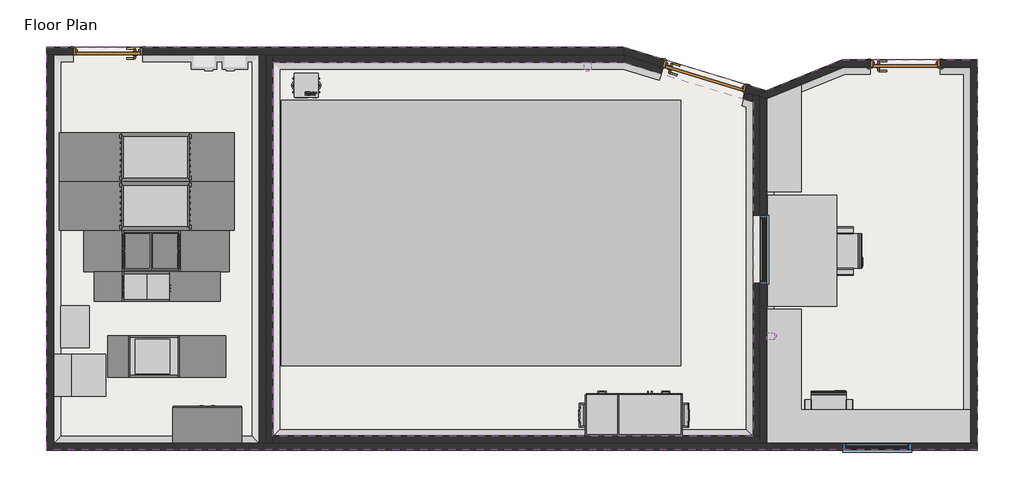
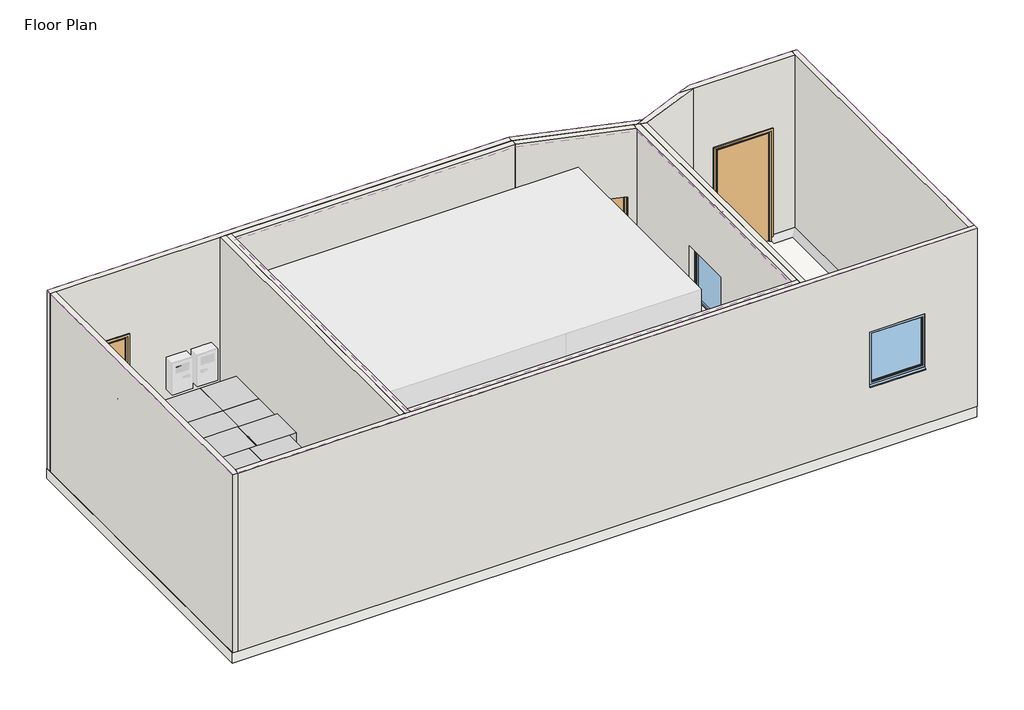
# One storey, part 1 of 2: 14 walls, 13 furniture elements, 7 proxies, 3 doors, 2 coverings, 2 windows, 1 slab.
"""IFC4 building model written with IfcOpenShell, lengths in millimetres."""

from ifc_helpers import new_model, si_unit, frame, origin, place, context, project, spatial, polyline, ellipse_curve, outline, extrude, faceted_brep, transform, mapped, element, save
from ifc_brep_helpers import plane_surface, cylinder_surface, revolved_surface, advanced_brep
from components import generic_models_a4c6fd55, generic_models_28b9f46c, generic_models_5fabc408, type_1_71104b44, door_f9eb5fde, door_1010x2110mm_ad0e13af, door_1010x2110mm_f2e4c21a, furniture_3b1ecb9b, furniture_bd22f9ff, furniture_fa404917, furniture_74cce83f, furniture_b9a21921, furniture_0908996f, furniture_ba49cc1c, furniture_6abc4a86, furniture_03daf546, furniture_d395b82f, furniture_5e5f2486, furniture_342fe79f, furniture_97fe266c, window_a183550a

model = new_model("IFC4")

# Units and contexts
model_context = context("Model", 3, world=origin())
ifc_project = project(units=[si_unit("LENGTHUNIT", "METRE", prefix="MILLI")], contexts=[model_context])

# Site, building, storey
site = spatial("IfcSite", under=ifc_project)
building = spatial("IfcBuilding", under=site)
storey = spatial("IfcBuildingStorey", under=building, Name="Floor Plan", Elevation=0.0)

# Proxies
placement = place(None, origin())
element("IfcBuildingElementProxy", 1, Name="Wall Sweeps", at=placement, inside=storey, context=model_context, shape_type="AdvancedBrep", body=[
    advanced_brep(
    [(-3162.5889003, -523.5240993, 0.0), (-3162.5889003, -523.5240993, 100.0), (-3152.5889003, -513.5240993, 100.0), (-3062.5889003, -423.5240993, 10.0), (-3062.5889003, -423.5240993, 0.0), (10093.9110997, -523.5240993, 0.0), (9993.9110997, -423.5240993, 0.0), (9993.9110997, -423.5240993, 10.0), (10083.9110997, -513.5240993, 100.0), (10093.9110997, -523.5240993, 100.0)],
    [
        (0, 1),
        (1, 2),
        (2, 3, ellipse_curve(frame((-3062.5889003, -423.5240993, 100.0), z_axis=(0.7071067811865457, -0.7071067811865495, 0.0), x_axis=(0.7071067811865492, 0.7071067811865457, 0.0)), 127.2792206, 90.0)),
        (3, 4),
        (4, 0),
        (5, 6),
        (6, 7),
        (7, 8, ellipse_curve(frame((9993.9110997, -423.5240993, 100.0), z_axis=(-0.7071067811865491, -0.707106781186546, 0.0), x_axis=(0.7071067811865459, -0.7071067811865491, 0.0)), 127.2792206, 90.0)),
        (8, 9),
        (9, 5),
        (0, 5),
        (9, 1),
        (8, 2),
        (7, 3),
        (6, 4),
    ],
    [
        plane_surface(frame((-3162.5889003, -523.5240993, -304.8), z_axis=(-0.7071067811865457, 0.7071067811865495, 0.0), x_axis=(0.7071067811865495, 0.7071067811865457, 0.0))),
        plane_surface(frame((10093.9110997, -523.5240993, -304.8), z_axis=(0.7071067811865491, 0.707106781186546, 0.0), x_axis=(-0.707106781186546, 0.7071067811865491, 0.0))),
        plane_surface(frame((-3162.5889003, -523.5240993, 0.0), z_axis=(0.0, -1.0, 0.0), x_axis=(1.0, 0.0, 0.0))),
        plane_surface(frame((-3162.5889003, -523.5240993, 100.0), z_axis=(0.0, 0.0, 1.0), x_axis=(1.0, 0.0, 0.0))),
        revolved_surface(polyline([(10083.911099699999, -333.5240993, 100.0), (-3152.5889003, -333.5240993, 100.0)]), (-3162.5889003, -423.5240993, 100.0), (1.0, 0.0, 0.0)),
        plane_surface(frame((-3062.5889003, -423.5240993, 10.0), z_axis=(0.0, 1.0, 0.0), x_axis=(1.0, 0.0, 0.0))),
        plane_surface(frame((-3062.5889003, -423.5240993, 0.0), z_axis=(0.0, 0.0, -1.0), x_axis=(1.0, 0.0, 0.0))),
    ],
    [
        (0, [[1, 2, 3, 4, 5]]),
        (1, [[6, 7, 8, 9, 10]]),
        (2, [[-1, 11, -10, 12]]),
        (3, [[-2, -12, -9, 13]]),
        (4, [[-3, -13, -8, 14]]),
        (5, [[-4, -14, -7, 15]]),
        (6, [[-5, -15, -6, -11]]),
    ],
),
])
element("IfcBuildingElementProxy", 2, Name="Wall Sweeps", at=placement, inside=storey, context=model_context, shape_type="AdvancedBrep", body=[
    advanced_brep(
    [(6.5880573, -423.5240993, 0.0), (6.5880573, -423.5240993, 100.0), (16.5880573, -413.5240993, 100.0), (106.5880573, -323.5240993, 10.0), (106.5880573, -323.5240993, 0.0), (6948.6928682, -423.5240993, 0.0), (6848.6928682, -323.5240993, 0.0), (6848.6928682, -323.5240993, 10.0), (6938.6928682, -413.5240993, 100.0), (6948.6928682, -423.5240993, 100.0)],
    [
        (0, 1),
        (1, 2),
        (2, 3, ellipse_curve(frame((106.5880573, -323.5240993, 100.0), z_axis=(0.7071067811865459, -0.7071067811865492, 0.0), x_axis=(0.707106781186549, 0.7071067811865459, 0.0)), 127.2792206, 90.0)),
        (3, 4),
        (4, 0),
        (5, 6),
        (6, 7),
        (7, 8, ellipse_curve(frame((6848.6928682, -323.5240993, 100.0), z_axis=(-0.7071067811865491, -0.707106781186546, 0.0), x_axis=(0.7071067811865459, -0.7071067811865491, 0.0)), 127.2792206, 90.0)),
        (8, 9),
        (9, 5),
        (0, 5),
        (9, 1),
        (8, 2),
        (7, 3),
        (6, 4),
    ],
    [
        plane_surface(frame((6.5880573, -423.5240993, -304.8), z_axis=(-0.7071067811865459, 0.7071067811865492, 0.0), x_axis=(0.7071067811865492, 0.7071067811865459, 0.0))),
        plane_surface(frame((6948.6928682, -423.5240993, -304.8), z_axis=(0.7071067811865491, 0.707106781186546, 0.0), x_axis=(-0.707106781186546, 0.7071067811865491, 0.0))),
        plane_surface(frame((6.5880573, -423.5240993, 0.0), z_axis=(0.0, -1.0, 0.0), x_axis=(1.0, 0.0, 0.0))),
        plane_surface(frame((6.5880573, -423.5240993, 100.0), z_axis=(0.0, 0.0, 1.0), x_axis=(1.0, 0.0, 0.0))),
        revolved_surface(polyline([(6938.6928682, -233.5240993, 100.0), (16.5880573, -233.5240993, 100.0)]), (6.5880573, -323.5240993, 100.0), (1.0, 0.0, 0.0)),
        plane_surface(frame((106.5880573, -323.5240993, 10.0), z_axis=(0.0, 1.0, 0.0), x_axis=(1.0, 0.0, 0.0))),
        plane_surface(frame((106.5880573, -323.5240993, 0.0), z_axis=(0.0, 0.0, -1.0), x_axis=(1.0, 0.0, 0.0))),
    ],
    [
        (0, [[1, 2, 3, 4, 5]]),
        (1, [[6, 7, 8, 9, 10]]),
        (2, [[-1, 11, -10, 12]]),
        (3, [[-2, -12, -9, 13]]),
        (4, [[-3, -13, -8, 14]]),
        (5, [[-4, -14, -7, 15]]),
        (6, [[-5, -15, -6, -11]]),
    ],
),
])
generic_models_shape = generic_models_a4c6fd55(model_context)
element("IfcBuildingElementProxy", 3, Name="BIMHealth-Gradient_Amplifier_Heat_Exchanger-LOD2A-v1 : BIMHealth-Gradient_Amplifier_Heat_Exchanger-LOD2A-v1", ObjectType="BIMHealth-Gradient_Amplifier_Heat_Exchanger-LOD2A-v1 : BIMHealth-Gradient_Amplifier_Heat_Exchanger-LOD2A-v1", at=placement, inside=storey, context=model_context, shape_type="MappedRepresentation", body=[
    mapped(generic_models_shape, transform((-1733.4119427, 734.3216085, 0.0), x_axis=(1.0, 0.0, 0.0), y_axis=(0.0, 1.0, 0.0), z_axis=(0.0, 0.0, 1.0))),
])
generic_models_2_shape = generic_models_28b9f46c(model_context)
element("IfcBuildingElementProxy", 4, Name="BIMHealth-Adaption_Transformer-LOD2A-v1 : BIMHealth-Adaption_Transformer-LOD2A-v1", ObjectType="BIMHealth-Adaption_Transformer-LOD2A-v1 : BIMHealth-Adaption_Transformer-LOD2A-v1", at=placement, inside=storey, context=model_context, shape_type="MappedRepresentation", body=[
    mapped(generic_models_2_shape, transform((-2857.5889003, 1163.8216085, 0.0), x_axis=(0.0, 1.0000000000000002, 0.0), y_axis=(-1.0000000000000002, 0.0, 0.0), z_axis=(0.0, 0.0, 1.0))),
])
generic_models_3_shape = generic_models_5fabc408(model_context)
element("IfcBuildingElementProxy", 5, Name="BIMHealth-Cryocompressor_Transformer-LOD2A-v1 : BIMHealth-Cryocompressor_Transformer-LOD2A-v1", ObjectType="BIMHealth-Cryocompressor_Transformer-LOD2A-v1 : BIMHealth-Cryocompressor_Transformer-LOD2A-v1", at=placement, inside=storey, context=model_context, shape_type="MappedRepresentation", body=[
    mapped(generic_models_3_shape, transform((-3115.0889003, 461.8216085, 0.0), x_axis=(0.0, 1.0, 0.0), y_axis=(-1.0, 0.0, 0.0), z_axis=(0.0, 0.0, 1.0))),
])
type_1_shape = type_1_71104b44(model_context)
element("IfcBuildingElementProxy", 6, Name="BIMHealth-Electrical-Emergency_Button-LOD2A-v1 : Type 1", ObjectType="BIMHealth-Electrical-Emergency_Button-LOD2A-v1 : Type 1", at=placement, inside=storey, context=model_context, shape_type="MappedRepresentation", body=[
    mapped(type_1_shape, transform((4681.5880573, 5036.0709051, 0.0), x_axis=(-1.0, 0.0, 0.0), y_axis=(0.0, -1.0, 0.0), z_axis=(0.0, 0.0, 1.0))),
])
element("IfcBuildingElementProxy", 7, Name="BIMHealth-Electrical-Emergency_Button-LOD2A-v1 : Type 1", ObjectType="BIMHealth-Electrical-Emergency_Button-LOD2A-v1 : Type 1", at=placement, inside=storey, context=model_context, shape_type="MappedRepresentation", body=[
    mapped(type_1_shape, transform((7098.6928682, 1151.4759007, 0.0), x_axis=(0.0, -1.0, 0.0), y_axis=(1.0, 0.0, 0.0), z_axis=(0.0, 0.0, 1.0))),
])

# Coverings
element("IfcCovering", 8, ObjectType="BIMHealth - Generic Ceiling", at=placement, inside=storey, context=model_context, shape_type="SweptSolid", body=[
    extrude(outline(polyline([(-3266.5988856, -613.1306445), (-3266.5988856, 5204.7150632), (5081.4801319, 5204.7150632), (7139.8391654, 4575.4115532), (8236.8018716, 5023.7485226), (10189.9011144, 5023.7485226), (10189.9011144, -613.1306445), (-3266.5988856, -613.1306445)]), holes=[polyline([(-1939.4070877, 4697.9853247), (-2539.4070877, 4697.9853247), (-2539.4070877, 4097.9853247), (-1939.4070877, 4097.9853247), (-1939.4070877, 4697.9853247)]), polyline([(-729.0277303, 4701.4634263), (-1329.0277303, 4701.4634263), (-1329.0277303, 4101.4634263), (-729.0277303, 4101.4634263), (-729.0277303, 4701.4634263)]), polyline([(-732.5058319, 2889.3724918), (-1332.5058319, 2889.3724918), (-1332.5058319, 2289.3724918), (-732.5058319, 2289.3724918), (-732.5058319, 2889.3724918)]), polyline([(-1932.4508845, 2896.328695), (-2532.4508845, 2896.328695), (-2532.4508845, 2296.328695), (-1932.4508845, 2296.328695), (-1932.4508845, 2896.328695)]), polyline([(-1940.2781631, 1100.0), (-2540.2781631, 1100.0), (-2540.2781631, 500.0), (-1940.2781631, 500.0), (-1940.2781631, 1100.0)]), polyline([(-733.5281291, 1100.0), (-1333.5281291, 1100.0), (-1333.5281291, 500.0), (-733.5281291, 500.0), (-733.5281291, 1100.0)]), polyline([(1069.0963202, 4700.0), (469.0963202, 4700.0), (469.0963202, 4100.0), (1069.0963202, 4100.0), (1069.0963202, 4700.0)]), polyline([(2849.0148148, 4700.0), (2249.0148148, 4700.0), (2249.0148148, 4100.0), (2849.0148148, 4100.0), (2849.0148148, 4700.0)]), polyline([(4660.9318442, 4700.0), (4060.9318442, 4700.0), (4060.9318442, 4100.0), (4660.9318442, 4100.0), (4660.9318442, 4700.0)]), polyline([(4656.9320274, 2900.0), (4056.9320274, 2900.0), (4056.9320274, 2300.0), (4656.9320274, 2300.0), (4656.9320274, 2900.0)]), polyline([(2865.0140822, 2900.0), (2265.0140822, 2900.0), (2265.0140822, 2300.0), (2865.0140822, 2300.0), (2865.0140822, 2900.0)]), polyline([(1061.0966865, 2900.0), (461.0966865, 2900.0), (461.0966865, 2300.0), (1061.0966865, 2300.0), (1061.0966865, 2900.0)]), polyline([(1053.0970528, 1100.0), (453.0970528, 1100.0), (453.0970528, 500.0), (1053.0970528, 500.0), (1053.0970528, 1100.0)]), polyline([(2865.0140822, 1100.0), (2265.0140822, 1100.0), (2265.0140822, 500.0), (2865.0140822, 500.0), (2865.0140822, 1100.0)]), polyline([(4664.9316611, 1100.0), (4064.9316611, 1100.0), (4064.9316611, 500.0), (4664.9316611, 500.0), (4664.9316611, 1100.0)]), polyline([(8256.7671852, 4700.0), (7656.7671852, 4700.0), (7656.7671852, 4100.0), (8256.7671852, 4100.0), (8256.7671852, 4700.0)]), polyline([(9472.7115051, 4700.0), (8872.7115051, 4700.0), (8872.7115051, 4100.0), (9472.7115051, 4100.0), (9472.7115051, 4700.0)]), polyline([(9468.7116883, 2900.0), (8868.7116883, 2900.0), (8868.7116883, 2300.0), (9468.7116883, 2300.0), (9468.7116883, 2900.0)]), polyline([(8268.7666357, 2900.0), (7668.7666357, 2900.0), (7668.7666357, 2300.0), (8268.7666357, 2300.0), (8268.7666357, 2900.0)]), polyline([(8264.7668189, 1100.0), (7664.7668189, 1100.0), (7664.7668189, 500.0), (8264.7668189, 500.0), (8264.7668189, 1100.0)]), polyline([(9444.7127872, 1100.0), (8844.7127872, 1100.0), (8844.7127872, 500.0), (9444.7127872, 500.0), (9444.7127872, 1100.0)]), polyline([(6456.8496063, 4700.0), (5856.8496063, 4700.0), (5856.8496063, 4100.0), (6456.8496063, 4100.0), (6456.8496063, 4700.0)]), polyline([(6484.8483242, 2900.0), (5884.8483242, 2900.0), (5884.8483242, 2300.0), (6484.8483242, 2300.0), (6484.8483242, 2900.0)]), polyline([(6460.8494231, 1100.0), (5860.8494231, 1100.0), (5860.8494231, 500.0), (6460.8494231, 500.0), (6460.8494231, 1100.0)])]), frame((0.0, 0.0, 3400.0), z_axis=(0.0, 0.0, 1.0), x_axis=(1.0, 0.0, 0.0)), (0.0, 0.0, 1.0), 52.0),
])
element("IfcCovering", 9, ObjectType="BIMHealth - Lead Lined Ceiling", at=placement, inside=storey, context=model_context, shape_type="SweptSolid", body=[
    extrude(outline(polyline([(6.5880573, -423.5240993), (6.5880573, 4986.0709051), (5082.5867517, 4986.0709051), (6948.6928682, 4415.5450104), (6948.6928682, -423.5240993), (6.5880573, -423.5240993)])), frame((0.0, 0.0, 3350.0), z_axis=(0.0, 0.0, 1.0), x_axis=(1.0, 0.0, 0.0)), (0.0, 0.0, 1.0), 52.0),
])

# Doors
door_shape = door_f9eb5fde(model_context)
element("IfcDoor", 10, ObjectType="BIMHealth-Single_Door-LOD2A-v1 : BIMHealth-Single_Door_Windowless-LOD2A-v1", at=placement, inside=storey, context=model_context, shape_type="MappedRepresentation", body=[
    mapped(door_shape, transform((-2377.5889003, 5144.3216085, 0.0), x_axis=(-1.0, 0.0, 0.0), y_axis=(0.0, -1.0, 0.0), z_axis=(0.0, 0.0, 1.0))),
])
door_1010x2110mm_shape = door_1010x2110mm_ad0e13af(model_context)
element("IfcDoor", 11, ObjectType="BIMHealth-Single_Door-LOD2A-v1 : 1010x2110mm", at=placement, inside=storey, context=model_context, shape_type="MappedRepresentation", body=[
    mapped(door_1010x2110mm_shape, transform((9148.9110997, 4963.3550679, 0.0), x_axis=(1.0, 0.0, 0.0), y_axis=(0.0, 1.0, 0.0), z_axis=(0.0, 0.0, 1.0))),
])
door_1010x2110mm_2_shape = door_1010x2110mm_f2e4c21a(model_context)
element("IfcDoor", 12, ObjectType="BIMHealth-Single_Door_1250mm_Wide-LOD2A-v1 : 1010x2110mm", at=placement, inside=storey, context=model_context, shape_type="MappedRepresentation", body=[
    mapped(door_1010x2110mm_2_shape, transform((6249.3458764, 4786.2106063, 0.0), x_axis=(0.9563047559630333, -0.2923717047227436, 0.0), y_axis=(0.2923717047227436, 0.9563047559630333, 0.0), z_axis=(0.0, 0.0, 1.0))),
])

# Furniture
furniture_shape = furniture_3b1ecb9b(model_context)
element("IfcFurniture", 13, ObjectType="BIMHealth-RF_System_Filter_Box-LOD2A-v1 : BIMHealth-RF_System_Filter_Box-LOD2A-v1", at=placement, inside=storey, context=model_context, shape_type="MappedRepresentation", body=[
    mapped(furniture_shape, transform((488.8078559, 4653.3550679, 0.0), x_axis=(1.0, 0.0, 0.0), y_axis=(0.0, 1.0, 0.0), z_axis=(0.0, 0.0, 1.0))),
])
furniture_2_shape = furniture_bd22f9ff(model_context)
element("IfcFurniture", 14, ObjectType="BIMHealth-Document_Cabinet-LOD2A-v1 : BIMHealth-Document_Cabinet-LOD2A-v1", at=placement, inside=storey, context=model_context, shape_type="MappedRepresentation", body=[
    mapped(furniture_2_shape, transform((-943.4119427, -258.5240993, 0.0), x_axis=(-1.0, 0.0, 0.0), y_axis=(0.0, -1.0, 0.0), z_axis=(0.0, 0.0, 1.0))),
])
furniture_3_shape = furniture_fa404917(model_context)
element("IfcFurniture", 15, ObjectType="BIMHealth-Coil_Storage_Cabinet-LOD2A-v1 : BIMHealth-Coil_Storage_Cabinet-LOD2A-v1", at=placement, inside=storey, context=model_context, shape_type="MappedRepresentation", body=[
    mapped(furniture_3_shape, transform((5225.594291, -111.0240993, 0.0), x_axis=(-1.0, 0.0, 0.0), y_axis=(0.0, -1.0, 0.0), z_axis=(0.0, 0.0, 1.0))),
])
furniture_4_shape = furniture_74cce83f(model_context)
element("IfcFurniture", 16, ObjectType="BIMHealth-Amplifier_Cabinet-LOD2A-v1 : BIMHealth-Amplifier_Cabinet-LOD2A-v1", at=placement, inside=storey, context=model_context, shape_type="MappedRepresentation", body=[
    mapped(furniture_4_shape, transform((-1692.5889003, 3613.3550679, 0.0), x_axis=(0.0, -1.0, 0.0), y_axis=(1.0, 0.0, 0.0), z_axis=(0.0, 0.0, 1.0))),
])
element("IfcFurniture", 17, ObjectType="BIMHealth-Amplifier_Cabinet-LOD2A-v1 : BIMHealth-Amplifier_Cabinet-LOD2A-v1", at=placement, inside=storey, context=model_context, shape_type="MappedRepresentation", body=[
    mapped(furniture_4_shape, transform((-1692.5889003, 2908.3550679, 0.0), x_axis=(0.0, -1.0000000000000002, 0.0), y_axis=(1.0000000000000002, 0.0, 0.0), z_axis=(0.0, 0.0, 1.0))),
])
furniture_5_shape = furniture_b9a21921(model_context)
furniture_6_shape = furniture_0908996f(model_context)
furniture_7_shape = furniture_ba49cc1c(model_context)
element("IfcFurniture", 18, ObjectType="BIMHealth-Data_Acquisition_Cabinet_MRI-LOD2A-v1 : BIMHealth-Data_Acquisition_Cabinet_MRI-LOD2A-v1", at=placement, inside=storey, context=model_context, shape_type="MappedRepresentation", body=[
    mapped(furniture_5_shape, transform((-1752.5889003, 2255.8550679, 0.0), x_axis=(0.0, 1.0000000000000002, 0.0), y_axis=(-1.0000000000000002, 0.0, 0.0), z_axis=(0.0, 0.0, 1.0))),
    mapped(furniture_6_shape, transform((-1752.5889003, 2255.8550679, 0.0), x_axis=(0.0, 1.0000000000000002, 0.0), y_axis=(-1.0000000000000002, 0.0, 0.0), z_axis=(0.0, 0.0, 1.0))),
    mapped(furniture_7_shape, transform((-1752.5889003, 2255.8550679, 0.0), x_axis=(0.0, 1.0000000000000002, 0.0), y_axis=(-1.0000000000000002, 0.0, 0.0), z_axis=(0.0, 0.0, 1.0))),
])
furniture_8_shape = furniture_6abc4a86(model_context)
element("IfcFurniture", 19, ObjectType="BIMHealth-Power_Amplifier_Cabinet_MRI-LOD2A-v1 : BIMHealth-Power_Amplifier_Cabinet_MRI-LOD2A-v1", at=placement, inside=storey, context=model_context, shape_type="MappedRepresentation", body=[
    mapped(furniture_8_shape, transform((-1817.5889003, 1743.3550679, 0.0), x_axis=(0.0, 1.0000000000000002, 0.0), y_axis=(-1.0000000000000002, 0.0, 0.0), z_axis=(0.0, 0.0, 1.0))),
])
furniture_9_shape = furniture_03daf546(model_context)
element("IfcFurniture", 20, ObjectType="BIMHealth-Gradient_Coil_Heat_Exchanger_Cabinet -LOD2A-v1 : BIMHealth-Gradient_Coil_Heat_Exchanger_Cabinet -LOD2A-v1", at=placement, inside=storey, context=model_context, shape_type="MappedRepresentation", body=[
    mapped(furniture_9_shape, transform((-1713.4119427, 734.3216085, 0.0), x_axis=(0.0, 1.0000000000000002, 0.0), y_axis=(-1.0000000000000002, 0.0, 0.0), z_axis=(0.0, 0.0, 1.0))),
])
furniture_10_shape = furniture_d395b82f(model_context)
element("IfcFurniture", 21, ObjectType="BIMHealth-Chair_Operator-LOD2A-v1 : BIMHealth-Chair_Operator-LOD2A-v1", at=placement, inside=storey, context=model_context, shape_type="MappedRepresentation", body=[
    mapped(furniture_10_shape, transform((8524.3248854, 2510.2230507, 0.0), x_axis=(0.0, -1.0, 0.0), y_axis=(1.0, 0.0, 0.0), z_axis=(0.0, 0.0, 1.0))),
])
element("IfcFurniture", 22, ObjectType="BIMHealth-Chair_Operator-LOD2A-v1 : BIMHealth-Chair_Operator-LOD2A-v1", at=placement, inside=storey, context=model_context, shape_type="MappedRepresentation", body=[
    mapped(furniture_10_shape, transform((7793.9110997, 230.587706, 0.0), x_axis=(1.0, 0.0, 0.0), y_axis=(0.0, 1.0, 0.0), z_axis=(0.0, 0.0, 1.0))),
])
furniture_11_shape = furniture_5e5f2486(model_context)
element("IfcFurniture", 23, ObjectType="BIMHealth-MRI_Benching-LOD2A-v1 : BIMHealth-MRI_Benching-LOD2A-v1", at=placement, inside=storey, context=model_context, shape_type="MappedRepresentation", body=[
    mapped(furniture_11_shape, transform((8594.3248854, 1413.3550679, 0.0), x_axis=(1.0, 0.0, 0.0), y_axis=(0.0, 1.0, 0.0), z_axis=(0.0, 0.0, 1.0))),
])
furniture_12_shape = furniture_342fe79f(model_context)
element("IfcFurniture", 24, ObjectType="BIMHealth-Console_Desk-LOD2A-v1 : BIMHealth-Console_Desk-LOD2A-v1", at=placement, inside=storey, context=model_context, shape_type="MappedRepresentation", body=[
    mapped(furniture_12_shape, transform((7658.6928682, 2261.7684808, 0.0), x_axis=(0.0, 1.0000000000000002, 0.0), y_axis=(-1.0000000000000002, 0.0, 0.0), z_axis=(0.0, 0.0, 1.0))),
])
furniture_13_shape = furniture_97fe266c(model_context)
element("IfcFurniture", 25, ObjectType="BIMHealth-Operators Console-LOD2A-v1 : BIMHealth-Operators Console-LOD2A-v1", at=placement, inside=storey, context=model_context, shape_type="MappedRepresentation", body=[
    mapped(furniture_13_shape, transform((7671.7486318, 2361.1926, 0.0), x_axis=(0.0, 1.0, 0.0), y_axis=(-1.0, 0.0, 0.0), z_axis=(0.0, 0.0, 1.0))),
])

# Slab
element("IfcSlab", 26, ObjectType="BIMHealth - Generic Floor", at=placement, inside=storey, context=model_context, shape_type="SweptSolid", body=[
    extrude(outline(polyline([(-3266.5988856, 5204.7150632), (5081.4801319, 5204.7150632), (7139.8391654, 4575.4115532), (8236.8018716, 5023.7485226), (10189.9011144, 5023.7485226), (10189.9011144, -613.1306445), (-3266.5988856, -613.1306445), (-3266.5988856, 5204.7150632)])), frame((0.0, 0.0, -200.0), z_axis=(0.0, 0.0, 1.0), x_axis=(1.0, 0.0, 0.0)), (0.0, 0.0, 1.0), 200.0),
])

# Walls
element("IfcWall", 27, ObjectType="BIMHealth - Generic Wall", at=placement, inside=storey, context=model_context, shape_type="Brep", body=[
    faceted_brep([(-3262.5889003, 5094.3216085, 0.0), (-3262.5889003, -623.5240993, 0.0), (-3262.5889003, -623.5240993, 3400.0), (-3262.5889003, 5094.3216085, 3400.0), (-3162.5889003, 5094.3216085, 0.0), (-3162.5889003, 5094.3216085, 3400.0), (-3162.5889003, -523.5240993, 3400.0), (-3162.5889003, -623.5240993, 3400.0), (-3162.5889003, -623.5240993, 0.0), (-3162.5889003, -523.5240993, 0.0)], [[[0, 1, 2, 3]], [[4, 5, 6, 7, 8, 9]], [[1, 0, 4, 9, 8]], [[3, 2, 7, 6, 5]], [[2, 1, 8, 7]], [[0, 3, 5, 4]]]),
])
element("IfcWall", 28, ObjectType="BIMHealth - Generic Wall", at=placement, inside=storey, context=model_context, shape_type="Brep", body=[
    faceted_brep([(-3162.5889003, -623.5240993, 0.0), (10193.9110997, -623.5240993, 0.0), (10193.9110997, -623.5240993, 3400.0), (-3162.5889003, -623.5240993, 3400.0), (9243.9110997, -623.5240993, 1050.0), (8243.9110997, -623.5240993, 1050.0), (8243.9110997, -623.5240993, 2100.0), (9243.9110997, -623.5240993, 2100.0), (-3162.5889003, -523.5240993, 0.0), (-3162.5889003, -523.5240993, 3400.0), (7048.6928682, -523.5240993, 3400.0), (7148.6928682, -523.5240993, 3400.0), (10093.9110997, -523.5240993, 3400.0), (10193.9110997, -523.5240993, 3400.0), (10193.9110997, -523.5240993, 0.0), (10093.9110997, -523.5240993, 0.0), (7148.6928682, -523.5240993, 0.0), (7048.6928682, -523.5240993, 0.0), (9243.9110997, -523.5240993, 1050.0), (9243.9110997, -523.5240993, 2100.0), (8243.9110997, -523.5240993, 2100.0), (8243.9110997, -523.5240993, 1050.0)], [[[0, 1, 2, 3], [4, 5, 6, 7]], [[8, 9, 10, 11, 12, 13, 14, 15, 16, 17], [18, 19, 20, 21]], [[1, 0, 8, 17, 16, 15, 14]], [[3, 2, 13, 12, 11, 10, 9]], [[0, 3, 9, 8]], [[2, 1, 14, 13]], [[19, 18, 4, 7]], [[20, 19, 7, 6]], [[21, 20, 6, 5]], [[18, 21, 5, 4]]]),
])
element("IfcWall", 29, ObjectType="BIMHealth - Generic Wall", at=placement, inside=storey, context=model_context, shape_type="Brep", body=[
    faceted_brep([(10193.9110997, -523.5240993, 0.0), (10193.9110997, 5013.3550679, 0.0), (10193.9110997, 5013.3550679, 3400.0), (10193.9110997, -523.5240993, 3400.0), (10093.9110997, -523.5240993, 0.0), (10093.9110997, -523.5240993, 3400.0), (10093.9110997, 4913.3550679, 3400.0), (10093.9110997, 5013.3550679, 3400.0), (10093.9110997, 5013.3550679, 0.0), (10093.9110997, 4913.3550679, 0.0)], [[[0, 1, 2, 3]], [[4, 5, 6, 7, 8, 9]], [[1, 0, 4, 9, 8]], [[3, 2, 7, 6, 5]], [[0, 3, 5, 4]], [[2, 1, 8, 7]]]),
])
element("IfcWall", 30, ObjectType="BIMHealth - Generic Wall", at=placement, inside=storey, context=model_context, shape_type="Brep", body=[
    faceted_brep([(8240.8118569, 5013.3550679, 3400.0), (10093.9110997, 5013.3550679, 3400.0), (10093.9110997, 5013.3550679, 0.0), (9653.9110997, 5013.3550679, 0.0), (9653.9110997, 5013.3550679, 2110.0), (8643.9110997, 5013.3550679, 2110.0), (8643.9110997, 5013.3550679, 0.0), (8240.8118569, 5013.3550679, 0.0), (10093.9110997, 4913.3550679, 3400.0), (8260.4584531, 4913.3550679, 3400.0), (7996.1381447, 4913.3550679, 3400.0), (7996.1381447, 4913.3550679, 0.0), (8260.4584531, 4913.3550679, 0.0), (8643.9110997, 4913.3550679, 0.0), (8643.9110997, 4913.3550679, 100.0), (8643.9110997, 4913.3550679, 2110.0), (9653.9110997, 4913.3550679, 2110.0), (9653.9110997, 4913.3550679, 100.0), (9653.9110997, 4913.3550679, 0.0), (10093.9110997, 4913.3550679, 0.0)], [[[0, 1, 2, 3, 4, 5, 6, 7]], [[8, 9, 10, 11, 12, 13, 14, 15, 16, 17, 18, 19]], [[2, 19, 18, 3]], [[11, 7, 6, 13, 12]], [[1, 0, 10, 9, 8]], [[2, 1, 8, 19]], [[0, 7, 11, 10]], [[16, 4, 3, 18, 17]], [[4, 16, 15, 5]], [[5, 15, 14, 13, 6]]]),
])
element("IfcWall", 31, ObjectType="BIMHealth - Generic Wall", at=placement, inside=storey, context=model_context, shape_type="Brep", body=[
    faceted_brep([(7996.1381447, 4913.3550679, 0.0), (7143.8491507, 4565.0180985, 0.0), (6997.4835628, 4505.1973737, 0.0), (6997.4835628, 4505.1973737, 3400.0), (7143.8491507, 4565.0180985, 3400.0), (7996.1381447, 4913.3550679, 3400.0), (7148.6928682, 4458.9680498, 0.0), (8260.4584531, 4913.3550679, 0.0), (8260.4584531, 4913.3550679, 100.0), (8260.4584531, 4913.3550679, 3400.0), (7148.6928682, 4458.9680498, 3400.0), (7148.6928682, 4458.9680498, 100.0), (7048.6928682, 4489.5411179, 0.0), (7048.6928682, 4489.5411179, 3400.0)], [[[0, 1, 2, 3, 4, 5]], [[6, 7, 8, 9, 10, 11]], [[2, 1, 0, 7, 6, 12]], [[5, 4, 3, 13, 10, 9]], [[0, 5, 9, 8, 7]], [[3, 2, 12, 6, 11, 10, 13]]]),
])
element("IfcWall", 32, ObjectType="BIMHealth - Generic Wall", at=placement, inside=storey, context=model_context, shape_type="Brep", body=[
    faceted_brep([(5085.4901172, 5194.3216085, 3400.0), (7143.8491507, 4565.0180985, 3400.0), (7143.8491507, 4565.0180985, 0.0), (6861.6549341, 4651.2935286, 0.0), (6861.6549341, 4651.2935286, 2110.0), (5666.2739891, 5016.7581595, 2110.0), (5666.2739891, 5016.7581595, 0.0), (5085.4901172, 5194.3216085, 0.0), (6997.4835628, 4505.1973737, 3400.0), (5070.545017, 5094.3216085, 3400.0), (5070.545017, 5094.3216085, 100.0), (5070.545017, 5094.3216085, 0.0), (5637.0368187, 4921.1276839, 0.0), (5637.0368187, 4921.1276839, 100.0), (5637.0368187, 4921.1276839, 2110.0), (6832.4177636, 4555.663053, 2110.0), (6832.4177636, 4555.663053, 100.0), (6832.4177636, 4555.663053, 0.0), (6997.4835628, 4505.1973737, 0.0), (6997.4835628, 4505.1973737, 100.0)], [[[0, 1, 2, 3, 4, 5, 6, 7]], [[8, 9, 10, 11, 12, 13, 14, 15, 16, 17, 18, 19]], [[11, 7, 6, 12]], [[2, 18, 17, 3]], [[1, 0, 9, 8]], [[0, 7, 11, 10, 9]], [[2, 1, 8, 19, 18]], [[4, 3, 17, 16, 15]], [[5, 4, 15, 14]], [[6, 5, 14, 13, 12]]]),
])
element("IfcWall", 33, ObjectType="BIMHealth - Generic Wall", at=placement, inside=storey, context=model_context, shape_type="Brep", body=[
    faceted_brep([(-3262.5889003, 5194.3216085, 3400.0), (5085.4901172, 5194.3216085, 3400.0), (5085.4901172, 5194.3216085, 0.0), (-1872.5889003, 5194.3216085, 0.0), (-1872.5889003, 5194.3216085, 2110.0), (-2882.5889003, 5194.3216085, 2110.0), (-2882.5889003, 5194.3216085, 0.0), (-3262.5889003, 5194.3216085, 0.0), (5070.545017, 5094.3216085, 3400.0), (-93.4119427, 5094.3216085, 3400.0), (-193.4119427, 5094.3216085, 3400.0), (-3162.5889003, 5094.3216085, 3400.0), (-3262.5889003, 5094.3216085, 3400.0), (-3262.5889003, 5094.3216085, 0.0), (-3162.5889003, 5094.3216085, 0.0), (-2882.5889003, 5094.3216085, 0.0), (-2882.5889003, 5094.3216085, 100.0), (-2882.5889003, 5094.3216085, 2110.0), (-1872.5889003, 5094.3216085, 2110.0), (-1872.5889003, 5094.3216085, 100.0), (-1872.5889003, 5094.3216085, 0.0), (-193.4119427, 5094.3216085, 0.0), (-93.4119427, 5094.3216085, 0.0), (5070.545017, 5094.3216085, 0.0), (5070.545017, 5094.3216085, 100.0)], [[[0, 1, 2, 3, 4, 5, 6, 7]], [[8, 9, 10, 11, 12, 13, 14, 15, 16, 17, 18, 19, 20, 21, 22, 23, 24]], [[2, 23, 22, 21, 20, 3]], [[13, 7, 6, 15, 14]], [[1, 0, 12, 11, 10, 9, 8]], [[2, 1, 8, 24, 23]], [[0, 7, 13, 12]], [[5, 17, 16, 15, 6]], [[17, 5, 4, 18]], [[18, 4, 3, 20, 19]]]),
])
element("IfcWall", 34, ObjectType="BIMHealth - Generic Wall", at=placement, inside=storey, context=model_context, shape_type="Brep", body=[
    faceted_brep([(-193.4119427, 5094.3216085, 0.0), (-193.4119427, -513.5240993, 0.0), (-193.4119427, -513.5240993, 100.0), (-193.4119427, -513.5240993, 3400.0), (-193.4119427, 5094.3216085, 3400.0), (-193.4119427, 5094.3216085, 100.0), (-93.4119427, 5094.3216085, 0.0), (-93.4119427, 5094.3216085, 3400.0), (-93.4119427, -513.5240993, 3400.0), (-93.4119427, -513.5240993, 0.0)], [[[0, 1, 2, 3, 4, 5]], [[6, 7, 8, 9]], [[1, 0, 6, 9]], [[3, 2, 1, 9, 8]], [[4, 3, 8, 7]], [[0, 5, 4, 7, 6]]]),
])
element("IfcWall", 35, ObjectType="BIMHealth - Generic Wall", at=placement, inside=storey, context=model_context, shape_type="AdvancedBrep", body=[
    advanced_brep(
    [(7048.6928682, -523.5240993, 3400.0), (7048.6928682, 4489.5411179, 3400.0), (7048.6928682, 4489.5411179, 100.0), (7048.6928682, 4479.0842004, 100.0), (7048.6928682, 4384.9719423, 10.0), (7048.6928682, 4384.9719423, 0.0), (7048.6928682, -523.5240993, 0.0), (7048.6928682, 2776.4759007, 1050.0), (7048.6928682, 2776.4759007, 2100.0), (7048.6928682, 1776.4759007, 2100.0), (7048.6928682, 1776.4759007, 1050.0), (7148.6928682, 4458.9680498, 3400.0), (7148.6928682, -523.5240993, 3400.0), (7148.6928682, -523.5240993, 100.0), (7148.6928682, -523.5240993, 0.0), (7148.6928682, 4354.3988741, 0.0), (7148.6928682, 4354.3988741, 10.0), (7148.6928682, 4448.5111322, 100.0), (7148.6928682, 4458.9680498, 100.0), (7148.6928682, 2776.4759007, 2100.0), (7148.6928682, 2776.4759007, 1050.0), (7148.6928682, 1776.4759007, 1050.0), (7148.6928682, 1776.4759007, 2100.0)],
    [
        (0, 1),
        (1, 2),
        (2, 3),
        (3, 4, ellipse_curve(frame((7048.6928682, 4384.9719423, 100.0), z_axis=(-1.0, 0.0, 0.0), x_axis=(0.0, 1.0, 0.0)), 94.1122581, 90.0)),
        (4, 5),
        (5, 6),
        (6, 0),
        (7, 8),
        (8, 9),
        (9, 10),
        (10, 7),
        (11, 12),
        (12, 13),
        (13, 14),
        (14, 15),
        (15, 16),
        (16, 17, ellipse_curve(frame((7148.6928682, 4354.3988741, 100.0), z_axis=(1.0, 0.0, 0.0), x_axis=(0.0, 1.0, 0.0)), 94.1122581, 90.0)),
        (17, 18),
        (18, 11),
        (19, 20),
        (20, 21),
        (21, 22),
        (22, 19),
        (14, 6),
        (5, 15),
        (0, 12),
        (11, 1),
        (18, 2),
        (17, 3),
        (16, 4),
        (7, 20),
        (19, 8),
        (22, 9),
        (21, 10),
    ],
    [
        plane_surface(frame((7048.6928682, 4458.9680498, 0.0), z_axis=(-1.0, 0.0, 0.0), x_axis=(0.0, -1.0, 0.0))),
        plane_surface(frame((7148.6928682, 4458.9680498, 0.0), z_axis=(1.0, 0.0, 0.0), x_axis=(0.0, 1.0, 0.0))),
        plane_surface(frame((7048.6928682, 4526.5391717, 0.0), z_axis=(0.0, 0.0, -1.0), x_axis=(1.0, 0.0, 0.0))),
        plane_surface(frame((7048.6928682, -573.5240993, 3400.0), z_axis=(0.0, 0.0, 1.0), x_axis=(1.0, 0.0, 0.0))),
        plane_surface(frame((-3162.5889003, -523.5240993, 0.0), z_axis=(0.0, -1.0, 0.0), x_axis=(-1.0, 0.0, 0.0))),
        plane_surface(frame((7097.9110997, 4474.4935945, 0.0), z_axis=(0.29237170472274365, 0.9563047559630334, 0.0), x_axis=(0.9563047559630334, -0.29237170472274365, 0.0))),
        plane_surface(frame((7148.6928682, 4458.9680498, 100.0), z_axis=(0.0, 0.0, -1.0), x_axis=(-0.956304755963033, 0.29237170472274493, 0.0))),
        cylinder_surface(frame((7119.4556977, 4363.3375742, 100.0), z_axis=(-0.9563047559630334, 0.29237170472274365, 0.0), x_axis=(-0.29237170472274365, -0.9563047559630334, 0.0)), 90.0),
        plane_surface(frame((7153.5365857, 4352.9180011, 10.0), z_axis=(0.2923717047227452, 0.9563047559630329, 0.0), x_axis=(-0.9563047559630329, 0.2923717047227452, 0.0))),
        plane_surface(frame((7048.6928682, 2776.4759007, 1050.0), z_axis=(0.0, -1.0, 0.0), x_axis=(1.0, 0.0, 0.0))),
        plane_surface(frame((7048.6928682, 2776.4759007, 2100.0), z_axis=(0.0, 0.0, -1.0), x_axis=(1.0, 0.0, 0.0))),
        plane_surface(frame((7048.6928682, 1776.4759007, 2100.0), z_axis=(0.0, 1.0, 0.0), x_axis=(1.0, 0.0, 0.0))),
        plane_surface(frame((7048.6928682, 1776.4759007, 1050.0), z_axis=(0.0, 0.0, 1.0), x_axis=(1.0, 0.0, 0.0))),
    ],
    [
        (0, [[1, 2, 3, 4, 5, 6, 7], [8, 9, 10, 11]]),
        (1, [[12, 13, 14, 15, 16, 17, 18, 19], [20, 21, 22, 23]]),
        (2, [[24, -6, 25, -15]]),
        (3, [[-1, 26, -12, 27]]),
        (4, [[-7, -24, -14, -13, -26]]),
        (5, [[-27, -19, 28, -2]]),
        (6, [[29, -3, -28, -18]]),
        (7, [[-29, -17, 30, -4]]),
        (8, [[-30, -16, -25, -5]]),
        (9, [[-8, 31, -20, 32]]),
        (10, [[-9, -32, -23, 33]]),
        (11, [[-10, -33, -22, 34]]),
        (12, [[-11, -34, -21, -31]]),
    ],
),
])
element("IfcWall", 36, ObjectType="BIMHealth - Lead Lining", at=placement, inside=storey, context=model_context, shape_type="Brep", body=[
    faceted_brep([(-93.4119427, 5086.0709051, 0.0), (-93.4119427, -523.5240993, 0.0), (-93.4119427, -523.5240993, 3400.0), (-93.4119427, 5086.0709051, 3400.0), (6.5880573, 5086.0709051, 0.0), (6.5880573, 5086.0709051, 3400.0), (6.5880573, 4986.0709051, 3400.0), (6.5880573, -423.5240993, 3400.0), (6.5880573, -523.5240993, 3400.0), (6.5880573, -523.5240993, 0.0), (6.5880573, -423.5240993, 0.0), (6.5880573, 4986.0709051, 0.0)], [[[0, 1, 2, 3]], [[4, 5, 6, 7, 8, 9, 10, 11]], [[1, 0, 4, 11, 10, 9]], [[3, 2, 8, 7, 6, 5]], [[2, 1, 9, 8]], [[0, 3, 5, 4]]]),
])
element("IfcWall", 37, ObjectType="BIMHealth - Lead Lining", at=placement, inside=storey, context=model_context, shape_type="Brep", body=[
    faceted_brep([(6.5880573, -523.5240993, 0.0), (7048.6928682, -523.5240993, 0.0), (7048.6928682, -523.5240993, 3400.0), (6.5880573, -523.5240993, 3400.0), (6.5880573, -423.5240993, 0.0), (6.5880573, -423.5240993, 3400.0), (6948.6928682, -423.5240993, 3400.0), (7048.6928682, -423.5240993, 3400.0), (7048.6928682, -423.5240993, 0.0), (6948.6928682, -423.5240993, 0.0)], [[[0, 1, 2, 3]], [[4, 5, 6, 7, 8, 9]], [[1, 0, 4, 9, 8]], [[3, 2, 7, 6, 5]], [[0, 3, 5, 4]], [[2, 1, 8, 7]]]),
])
element("IfcWall", 38, ObjectType="BIMHealth - Lead Lining", at=placement, inside=storey, context=model_context, shape_type="Brep", body=[
    faceted_brep([(7048.6928682, -423.5240993, 0.0), (7048.6928682, 4487.9877696, 0.0), (7048.6928682, 4487.9877696, 3400.0), (7048.6928682, -423.5240993, 3400.0), (7048.6928682, 1788.7208708, 2144.4036538), (7048.6928682, 2776.4759007, 2144.4036538), (7048.6928682, 2776.4759007, 1104.4036538), (7048.6928682, 1788.7208708, 1104.4036538), (6948.6928682, -423.5240993, 0.0), (6948.6928682, -423.5240993, 3400.0), (6948.6928682, 4413.9916621, 3400.0), (6948.6928682, 4518.5608377, 3400.0), (6948.6928682, 4518.5608377, 0.0), (6948.6928682, 4413.9916621, 0.0), (6948.6928682, 1788.7208708, 2144.4036538), (6948.6928682, 1788.7208708, 1104.4036538), (6948.6928682, 2776.4759007, 1104.4036538), (6948.6928682, 2776.4759007, 2144.4036538)], [[[0, 1, 2, 3], [4, 5, 6, 7]], [[8, 9, 10, 11, 12, 13], [14, 15, 16, 17]], [[0, 3, 9, 8]], [[2, 1, 12, 11]], [[1, 0, 8, 13, 12]], [[3, 2, 11, 10, 9]], [[5, 4, 14, 17]], [[6, 5, 17, 16]], [[7, 6, 16, 15]], [[4, 7, 15, 14]]]),
])
element("IfcWall", 39, ObjectType="BIMHealth - Lead Lining", at=placement, inside=storey, context=model_context, shape_type="Brep", body=[
    faceted_brep([(5092.4510783, 5086.0709051, 3400.0), (6948.6928682, 4518.5608377, 3400.0), (6948.6928682, 4518.5608377, 0.0), (6846.3280243, 4549.8569112, 0.0), (6846.3280243, 4549.8569112, 2110.0), (6831.9834529, 4554.2424868, 2110.0), (5651.1481783, 4915.26006, 2110.0), (5651.1481783, 4915.26006, 0.0), (5092.4510783, 5086.0709051, 0.0), (6948.6928682, 4413.9916621, 3400.0), (5077.5059782, 4986.0709051, 3400.0), (5077.5059782, 4986.0709051, 100.0), (5077.5059782, 4986.0709051, 0.0), (5621.9110078, 4819.6295844, 0.0), (5621.9110078, 4819.6295844, 100.0), (5621.9110078, 4819.6295844, 2110.0), (6802.7462825, 4458.6120112, 2110.0), (6817.0908538, 4454.2264356, 2110.0), (6817.0908538, 4454.2264356, 100.0), (6817.0908538, 4454.2264356, 0.0), (6948.6928682, 4413.9916621, 0.0), (6948.6928682, 4413.9916621, 100.0)], [[[0, 1, 2, 3, 4, 5, 6, 7, 8]], [[9, 10, 11, 12, 13, 14, 15, 16, 17, 18, 19, 20, 21]], [[2, 1, 9, 21, 20]], [[0, 8, 12, 11, 10]], [[1, 0, 10, 9]], [[3, 2, 20, 19]], [[4, 3, 19, 18, 17]], [[5, 4, 17, 16]], [[6, 5, 16, 15]], [[7, 6, 15, 14, 13]], [[8, 7, 13, 12]]]),
])
element("IfcWall", 40, ObjectType="BIMHealth - Lead Lining", at=placement, inside=storey, context=model_context, shape_type="Brep", body=[
    faceted_brep([(5092.4510783, 5086.0709051, 0.0), (6.5880573, 5086.0709051, 0.0), (6.5880573, 5086.0709051, 3400.0), (5092.4510783, 5086.0709051, 3400.0), (5077.5059782, 4986.0709051, 0.0), (5077.5059782, 4986.0709051, 100.0), (5077.5059782, 4986.0709051, 3400.0), (6.5880573, 4986.0709051, 3400.0), (6.5880573, 4986.0709051, 0.0)], [[[0, 1, 2, 3]], [[4, 5, 6, 7, 8]], [[1, 0, 4, 8]], [[3, 2, 7, 6]], [[2, 1, 8, 7]], [[0, 3, 6, 5, 4]]]),
])

# Windows
window_shape = window_a183550a(model_context)
element("IfcWindow", 41, ObjectType="BIMHealth-Window_BIMHealth_Single-LOD2A-v1 : BIMHealth-Window_BIMHealth_Single-LOD2A-v1", at=placement, inside=storey, context=model_context, shape_type="MappedRepresentation", body=[
    mapped(window_shape, transform((7098.6928682, 2276.4759007, 0.0), x_axis=(0.0, -1.0, 0.0), y_axis=(1.0, 0.0, 0.0), z_axis=(0.0, 0.0, 1.0))),
])
element("IfcWindow", 42, ObjectType="BIMHealth-Window_BIMHealth_Single-LOD2A-v1 : BIMHealth-Window_BIMHealth_Single-LOD2A-v1", at=placement, inside=storey, context=model_context, shape_type="MappedRepresentation", body=[
    mapped(window_shape, transform((8743.9110997, -573.5240993, 0.0), x_axis=(-1.0, 0.0, 0.0), y_axis=(0.0, -1.0, 0.0), z_axis=(0.0, 0.0, 1.0))),
])

save(model, "model.ifc")
